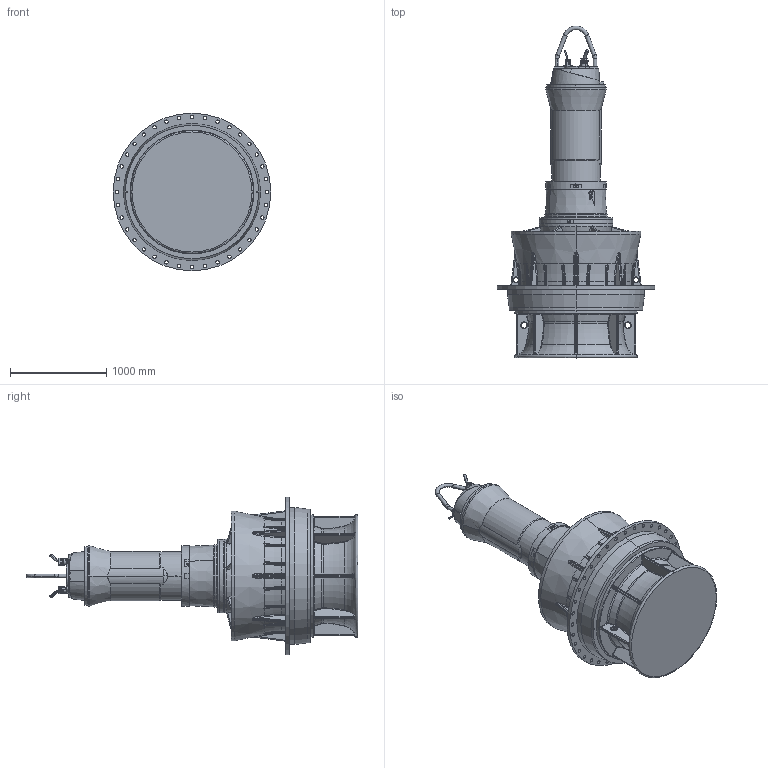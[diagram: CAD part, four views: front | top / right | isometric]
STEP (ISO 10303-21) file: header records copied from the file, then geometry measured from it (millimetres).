
FILE_DESCRIPTION (( 'STEP AP214' ), '1' );
FILE_NAME ('PE6_VUPX1200 G3_DIN_A_NG2.STEP', '2017-04-24T11:07:22', ( '' ), ( '' ), 'SwSTEP 2.0', 'SolidWorks 2017', '' );
FILE_SCHEMA (( 'AUTOMOTIVE_DESIGN' ));
Length unit declared in the file: millimetre
Products named in the file (1): PE6_VUPX1200 G3_DIN_A_NG2
Bounding box: 1642 x 3457 x 1642 mm (x, y, z)
Volume: 1941667583.3 mm3; surface area: 17247155.9 mm2
Topology: 4 solids, 20 shells, 2964 faces, 7175 edges, 4221 vertices
Faces by surface type: bspline 862, cylinder 744, plane 713, torus 336, cone 235, sphere 74
Entity records: 169108 total; most frequent: CARTESIAN_POINT 73969, ORIENTED_EDGE 14142, DIRECTION 11587, EDGE_CURVE 7071, AXIS2_PLACEMENT_3D 4703, VERTEX_POINT 4221, EDGE_LOOP 3174, UNCERTAINTY_MEASURE_WITH_UNIT 2970
